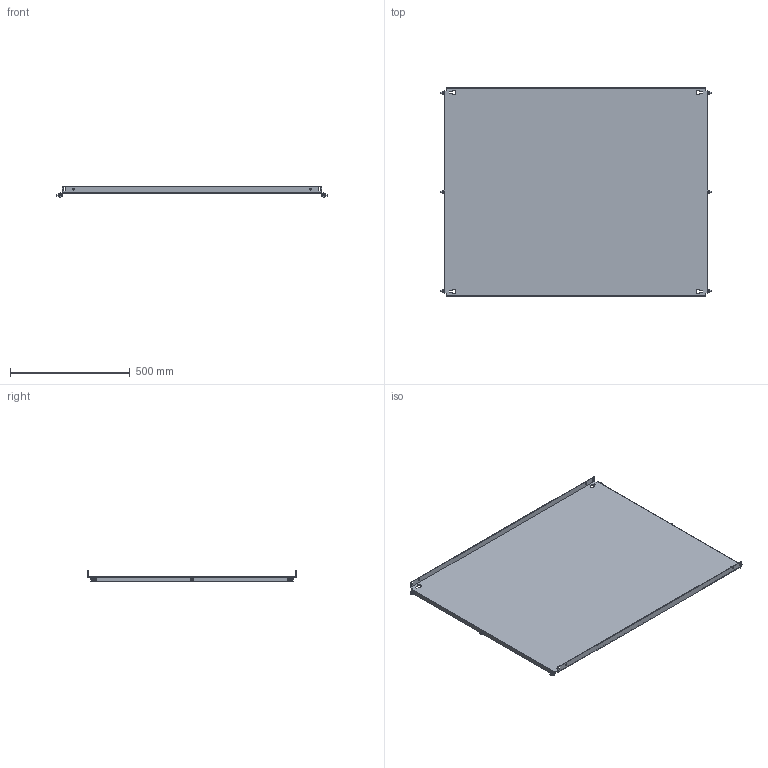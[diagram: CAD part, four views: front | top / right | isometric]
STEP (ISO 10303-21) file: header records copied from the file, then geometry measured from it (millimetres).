
FILE_DESCRIPTION(('Open CASCADE Model'),'2;1');
FILE_NAME('Open CASCADE Shape Model','2025-02-24T17:07:12',('Author'),( 'Open CASCADE'),'Open CASCADE STEP processor 7.8','Open CASCADE 7.8' ,'Unknown');
FILE_SCHEMA(('AUTOMOTIVE_DESIGN { 1 0 10303 214 1 1 1 1 }'));
Length unit declared in the file: millimetre
Products named in the file (4): Compound1; Solid1; Solid2; Solid3
Assembly tree (13 placements, depth 2):
  Compound1
    Solid1
    Solid2  x6
    Solid3  x6
Bounding box: 1127 x 869 x 42.59 mm (x, y, z)
Volume: 2589779.6 mm3; surface area: 2084469.4 mm2
Topology: 13 solids, 13 shells, 420 faces, 1003 edges, 615 vertices
Faces by surface type: plane 192, cone 102, bspline 72, cylinder 36, torus 18
Full cylindrical faces by diameter (mm): 5 x6, 6 x12, 7 x14
Entity records: 4962 total; most frequent: CARTESIAN_POINT 1381, ORIENTED_EDGE 756, DIRECTION 650, EDGE_CURVE 378, VERTEX_POINT 245, AXIS2_PLACEMENT_3D 217, LINE 216, VECTOR 216
